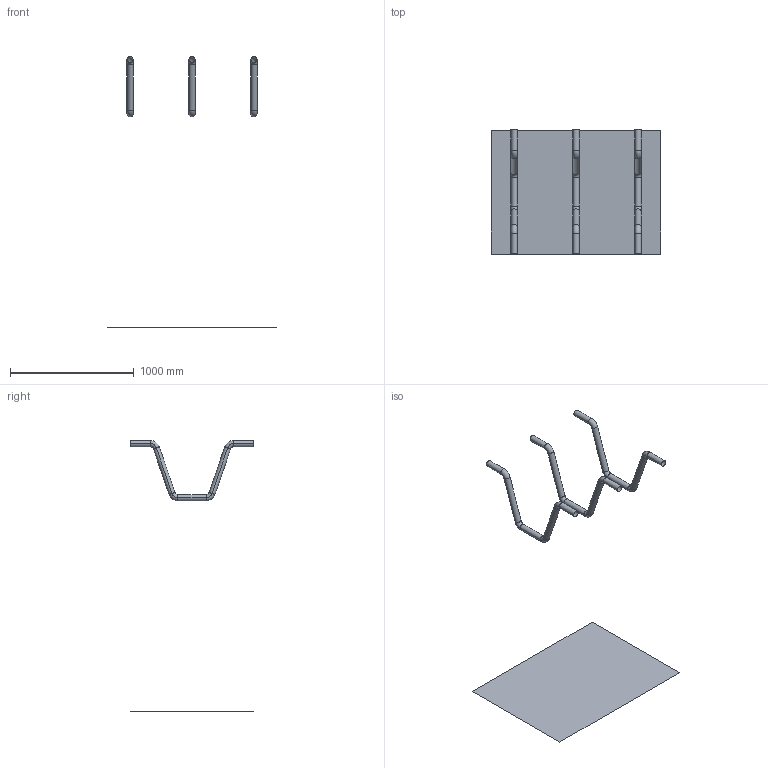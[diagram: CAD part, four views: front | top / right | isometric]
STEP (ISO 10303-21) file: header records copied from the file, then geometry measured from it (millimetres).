
FILE_DESCRIPTION(('CATIA V5 STEP Exchange'),'2;1');
FILE_NAME('C:\_Andres\UNIVERSIDAD\IQS\ASIGNATURAS\DAO\EXF\EXF-16172c\2inicio\Garcia_Granada_Ej08_v37.stp','2017-03-05T21:54:59+00:00',('none'),('none'),'CATIA Version 5-6 Release 2014 SP1 HF18','CATIA V5 STEP AP203','none');
FILE_SCHEMA(('CONFIG_CONTROL_DESIGN'));
Length unit declared in the file: millimetre
Products named in the file (1): Garcia_Granada_Ej08_v37
Bounding box: 1370 x 1000 x 2188 mm (x, y, z)
Surface area: 2117608.9 mm2 (no closed solid volume)
Topology: 0 solids, 4 shells, 55 faces, 118 edges, 64 vertices
Faces by surface type: cylinder 30, torus 24, plane 1
Entity records: 1283 total; most frequent: ORIENTED_EDGE 220, CARTESIAN_POINT 208, DIRECTION 168, EDGE_CURVE 118, AXIS2_PLACEMENT_3D 110, CIRCLE 84, VERTEX_POINT 64, ADVANCED_FACE 55
